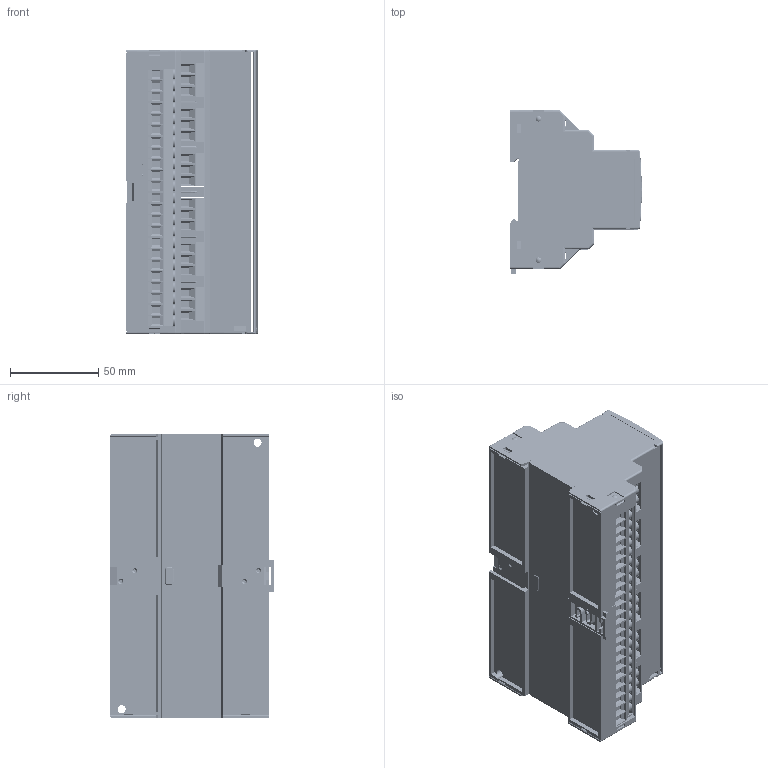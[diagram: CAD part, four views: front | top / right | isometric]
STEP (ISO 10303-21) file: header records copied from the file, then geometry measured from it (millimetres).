
FILE_DESCRIPTION (( 'STEP AP214' ), '1' );
FILE_NAME ('XM490.STEP', '2013-06-07T08:54:47', ( 'User' ), ( 'Bender' ), 'SwSTEP 2.0', 'SolidWorks 2013', '' );
FILE_SCHEMA (( 'AUTOMOTIVE_DESIGN' ));
Length unit declared in the file: millimetre
Products named in the file (9): Plomb_z151868.00_162mm_9TE; Ortho_6.35R-3p-sw; 1714968-schwarz; XM490; Unterteil_z151867.01_162_9TE; Oberteil_z151866.00_162_V1; Schieber_z151798.02_Default; Ortho_6.35L-3p-sw; 1714955-schwarz
Assembly tree (32 placements, depth 2):
  XM490
    1714968-schwarz  x14
    Ortho_6.35R-3p-sw  x6
    Plomb_z151868.00_162mm_9TE
    1714955-schwarz  x2
    Ortho_6.35L-3p-sw  x6
    Schieber_z151798.02_Default
    Oberteil_z151866.00_162_V1
    Unterteil_z151867.01_162_9TE
Bounding box: 74.5 x 92.7 x 161 mm (x, y, z)
Volume: 216820.9 mm3; surface area: 195195.6 mm2
Topology: 32 solids, 32 shells, 8337 faces, 21685 edges, 13899 vertices
Faces by surface type: plane 6392, cylinder 1413, cone 290, torus 132, bspline 90, sphere 20
Entity records: 106534 total; most frequent: CARTESIAN_POINT 25594, ORIENTED_EDGE 17376, DIRECTION 15800, EDGE_CURVE 8688, VECTOR 6438, LINE 6438, VERTEX_POINT 5572, AXIS2_PLACEMENT_3D 4681
